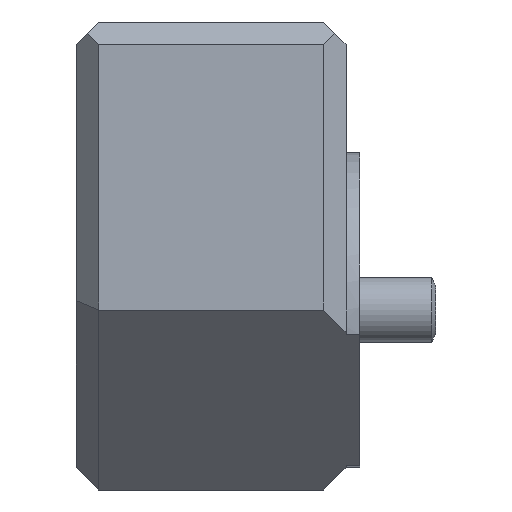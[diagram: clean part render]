
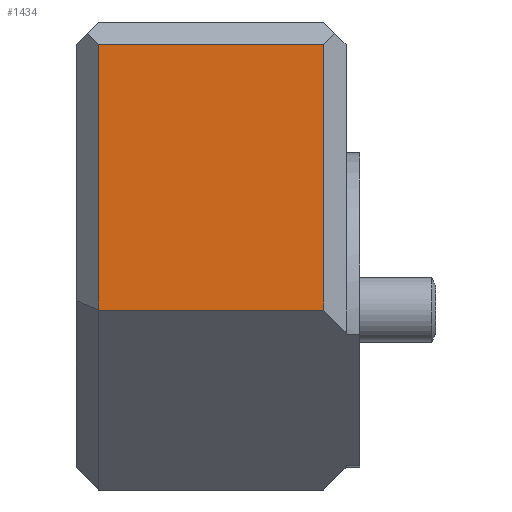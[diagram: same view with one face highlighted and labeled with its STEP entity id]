
A CAD part, left-side view. The second image highlights one B-rep face of the part: STEP entity #1434.
In plain terms, the highlighted planar face has unit normal (-1, 0, 0).
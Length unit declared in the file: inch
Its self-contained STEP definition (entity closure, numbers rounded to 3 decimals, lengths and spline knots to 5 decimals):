
#50=PLANE('',#1565);
#110=FACE_OUTER_BOUND('',#193,.T.);
#193=EDGE_LOOP('',(#981,#982,#983,#984));
#285=LINE('',#2244,#383);
#290=LINE('',#2254,#388);
#291=LINE('',#2256,#389);
#292=LINE('',#2257,#390);
#383=VECTOR('',#1796,0.3937);
#388=VECTOR('',#1803,0.3937);
#389=VECTOR('',#1804,0.3937);
#390=VECTOR('',#1805,0.3937);
#601=VERTEX_POINT('',#2241);
#602=VERTEX_POINT('',#2243);
#606=VERTEX_POINT('',#2253);
#607=VERTEX_POINT('',#2255);
#753=EDGE_CURVE('',#601,#602,#285,.T.);
#758=EDGE_CURVE('',#601,#606,#290,.T.);
#759=EDGE_CURVE('',#607,#606,#291,.T.);
#760=EDGE_CURVE('',#602,#607,#292,.T.);
#981=ORIENTED_EDGE('',*,*,#753,.F.);
#982=ORIENTED_EDGE('',*,*,#758,.T.);
#983=ORIENTED_EDGE('',*,*,#759,.F.);
#984=ORIENTED_EDGE('',*,*,#760,.F.);
#1434=ADVANCED_FACE('',(#110),#50,.T.);
#1565=AXIS2_PLACEMENT_3D('',#2252,#1801,#1802);
#1796=DIRECTION('',(0.,0.,-1.));
#1801=DIRECTION('center_axis',(-1.,0.,0.));
#1802=DIRECTION('ref_axis',(0.,0.,1.));
#1803=DIRECTION('',(0.,1.,0.));
#1804=DIRECTION('',(0.,0.,1.));
#1805=DIRECTION('',(0.,1.,0.));
#2241=CARTESIAN_POINT('',(-1.57731,-0.62143,0.92512));
#2243=CARTESIAN_POINT('',(-1.57731,-0.62143,-0.23626));
#2244=CARTESIAN_POINT('',(-1.57731,-0.62143,-0.11813));
#2252=CARTESIAN_POINT('Origin',(-1.57731,-0.71985,-0.23626));
#2253=CARTESIAN_POINT('',(-1.57731,0.36282,0.92512));
#2254=CARTESIAN_POINT('',(-1.57731,-0.71985,0.92512));
#2255=CARTESIAN_POINT('',(-1.57731,0.36282,-0.23626));
#2256=CARTESIAN_POINT('',(-1.57731,0.36282,-0.11813));
#2257=CARTESIAN_POINT('',(-1.57731,-0.71985,-0.23626));
